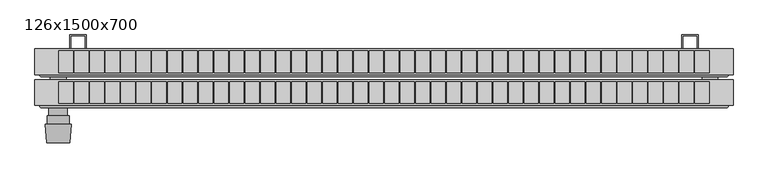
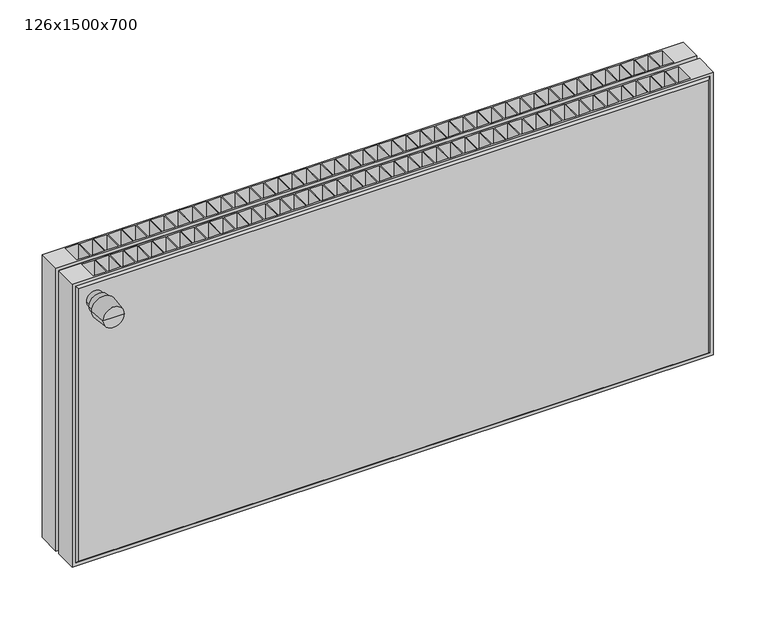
"""IFC4 building model written with IfcOpenShell, lengths in millimetres: unitary equipment geometry, NBS_Hudevad_Rdtrs_PlanDouble : 126x1500x700."""

from ifc_helpers import new_model, si_unit, point, frame, frame_2d, origin, place, context, project, spatial, polyline, circle_curve, trimmed, segment, composite_curve, outline, extrude, faceted_brep, source, transform, mapped, element, save
from ifc_brep_helpers import plane_surface, cylinder_surface, revolved_surface, advanced_brep


def unitary_equipment_126x1500x700_0e61a479(model_context):
    return source(origin(), model_context, "Body", "SolidModel", [
        faceted_brep([(1487.13, -156.0, 687.2), (12.87, -156.0, 687.2), (12.87, -156.0, 12.8), (1487.13, -156.0, 12.8), (1492.13, -151.41, 692.2), (1492.13, -151.41, 7.8), (7.87, -151.41, 7.8), (7.87, -151.41, 692.2)], [[[0, 1, 2, 3]], [[4, 5, 6, 7]], [[4, 7, 1, 0]], [[7, 6, 2, 1]], [[6, 5, 3, 2]], [[5, 4, 0, 3]]]),
        faceted_brep([(1500.0, -96.0, 700.0), (0.0, -96.0, 700.0), (0.0, -151.41, 700.0), (1500.0, -151.41, 700.0), (1418.15, -100.1, 700.0), (1448.45, -100.1, 700.0), (1448.45, -147.31, 700.0), (1418.15, -147.31, 700.0), (84.8817073, -100.1, 700.0), (115.1817073, -100.1, 700.0), (115.1817073, -147.31, 700.0), (84.8817073, -147.31, 700.0), (118.2134146, -100.1, 700.0), (148.5134146, -100.1, 700.0), (148.5134146, -147.31, 700.0), (118.2134146, -147.31, 700.0), (151.545122, -100.1, 700.0), (181.845122, -100.1, 700.0), (181.845122, -147.31, 700.0), (151.545122, -147.31, 700.0), (184.8768293, -100.1, 700.0), (215.1768293, -100.1, 700.0), (215.1768293, -147.31, 700.0), (184.8768293, -147.31, 700.0), (218.2085366, -100.1, 700.0), (248.5085366, -100.1, 700.0), (248.5085366, -147.31, 700.0), (218.2085366, -147.31, 700.0), (251.5402439, -100.1, 700.0), (281.8402439, -100.1, 700.0), (281.8402439, -147.31, 700.0), (251.5402439, -147.31, 700.0), (284.8719512, -100.1, 700.0), (315.1719512, -100.1, 700.0), (315.1719512, -147.31, 700.0), (284.8719512, -147.31, 700.0), (318.2036585, -100.1, 700.0), (348.5036585, -100.1, 700.0), (348.5036585, -147.31, 700.0), (318.2036585, -147.31, 700.0), (351.5353659, -100.1, 700.0), (381.8353659, -100.1, 700.0), (381.8353659, -147.31, 700.0), (351.5353659, -147.31, 700.0), (384.8670732, -100.1, 700.0), (415.1670732, -100.1, 700.0), (415.1670732, -147.31, 700.0), (384.8670732, -147.31, 700.0), (418.1987805, -100.1, 700.0), (448.4987805, -100.1, 700.0), (448.4987805, -147.31, 700.0), (418.1987805, -147.31, 700.0), (451.5304878, -100.1, 700.0), (481.8304878, -100.1, 700.0), (481.8304878, -147.31, 700.0), (451.5304878, -147.31, 700.0), (484.8621951, -100.1, 700.0), (515.1621951, -100.1, 700.0), (515.1621951, -147.31, 700.0), (484.8621951, -147.31, 700.0), (51.55, -100.1, 700.0), (81.85, -100.1, 700.0), (81.85, -147.31, 700.0), (51.55, -147.31, 700.0), (518.1939024, -100.1, 700.0), (548.4939024, -100.1, 700.0), (548.4939024, -147.31, 700.0), (518.1939024, -147.31, 700.0), (551.5256098, -100.1, 700.0), (581.8256098, -100.1, 700.0), (581.8256098, -147.31, 700.0), (551.5256098, -147.31, 700.0), (584.8573171, -100.1, 700.0), (615.1573171, -100.1, 700.0), (615.1573171, -147.31, 700.0), (584.8573171, -147.31, 700.0), (618.1890244, -100.1, 700.0), (648.4890244, -100.1, 700.0), (648.4890244, -147.31, 700.0), (618.1890244, -147.31, 700.0), (651.5207317, -100.1, 700.0), (681.8207317, -100.1, 700.0), (681.8207317, -147.31, 700.0), (651.5207317, -147.31, 700.0), (684.852439, -100.1, 700.0), (715.152439, -100.1, 700.0), (715.152439, -147.31, 700.0), (684.852439, -147.31, 700.0), (718.1841463, -100.1, 700.0), (748.4841463, -100.1, 700.0), (748.4841463, -147.31, 700.0), (718.1841463, -147.31, 700.0), (751.5158537, -100.1, 700.0), (781.8158537, -100.1, 700.0), (781.8158537, -147.31, 700.0), (751.5158537, -147.31, 700.0), (784.847561, -100.1, 700.0), (815.147561, -100.1, 700.0), (815.147561, -147.31, 700.0), (784.847561, -147.31, 700.0), (818.1792683, -100.1, 700.0), (848.4792683, -100.1, 700.0), (848.4792683, -147.31, 700.0), (818.1792683, -147.31, 700.0), (851.5109756, -100.1, 700.0), (881.8109756, -100.1, 700.0), (881.8109756, -147.31, 700.0), (851.5109756, -147.31, 700.0), (884.8426829, -100.1, 700.0), (915.1426829, -100.1, 700.0), (915.1426829, -147.31, 700.0), (884.8426829, -147.31, 700.0), (918.1743902, -100.1, 700.0), (948.4743902, -100.1, 700.0), (948.4743902, -147.31, 700.0), (918.1743902, -147.31, 700.0), (951.5060976, -100.1, 700.0), (981.8060976, -100.1, 700.0), (981.8060976, -147.31, 700.0), (951.5060976, -147.31, 700.0), (984.8378049, -100.1, 700.0), (1015.1378049, -100.1, 700.0), (1015.1378049, -147.31, 700.0), (984.8378049, -147.31, 700.0), (1018.1695122, -100.1, 700.0), (1048.4695122, -100.1, 700.0), (1048.4695122, -147.31, 700.0), (1018.1695122, -147.31, 700.0), (1051.5012195, -100.1, 700.0), (1081.8012195, -100.1, 700.0), (1081.8012195, -147.31, 700.0), (1051.5012195, -147.31, 700.0), (1084.8329268, -100.1, 700.0), (1115.1329268, -100.1, 700.0), (1115.1329268, -147.31, 700.0), (1084.8329268, -147.31, 700.0), (1118.1646341, -100.1, 700.0), (1148.4646341, -100.1, 700.0), (1148.4646341, -147.31, 700.0), (1118.1646341, -147.31, 700.0), (1151.4963415, -100.1, 700.0), (1181.7963415, -100.1, 700.0), (1181.7963415, -147.31, 700.0), (1151.4963415, -147.31, 700.0), (1184.8280488, -100.1, 700.0), (1215.1280488, -100.1, 700.0), (1215.1280488, -147.31, 700.0), (1184.8280488, -147.31, 700.0), (1218.1597561, -100.1, 700.0), (1248.4597561, -100.1, 700.0), (1248.4597561, -147.31, 700.0), (1218.1597561, -147.31, 700.0), (1251.4914634, -100.1, 700.0), (1281.7914634, -100.1, 700.0), (1281.7914634, -147.31, 700.0), (1251.4914634, -147.31, 700.0), (1284.8231707, -100.1, 700.0), (1315.1231707, -100.1, 700.0), (1315.1231707, -147.31, 700.0), (1284.8231707, -147.31, 700.0), (1318.154878, -100.1, 700.0), (1348.454878, -100.1, 700.0), (1348.454878, -147.31, 700.0), (1318.154878, -147.31, 700.0), (1351.4865854, -100.1, 700.0), (1381.7865854, -100.1, 700.0), (1381.7865854, -147.31, 700.0), (1351.4865854, -147.31, 700.0), (1384.8182927, -100.1, 700.0), (1415.1182927, -100.1, 700.0), (1415.1182927, -147.31, 700.0), (1384.8182927, -147.31, 700.0), (0.0, -96.0, 0.0), (1500.0, -96.0, 0.0), (1500.0, -151.41, 0.0), (0.0, -151.41, 0.0), (1448.45, -100.1, 650.0), (1418.15, -100.1, 650.0), (1418.15, -147.31, 650.0), (1448.45, -147.31, 650.0), (115.1817073, -100.1, 650.0), (84.8817073, -100.1, 650.0), (84.8817073, -147.31, 650.0), (115.1817073, -147.31, 650.0), (148.5134146, -100.1, 650.0), (118.2134146, -100.1, 650.0), (118.2134146, -147.31, 650.0), (148.5134146, -147.31, 650.0), (181.845122, -100.1, 650.0), (151.545122, -100.1, 650.0), (151.545122, -147.31, 650.0), (181.845122, -147.31, 650.0), (215.1768293, -100.1, 650.0), (184.8768293, -100.1, 650.0), (184.8768293, -147.31, 650.0), (215.1768293, -147.31, 650.0), (248.5085366, -100.1, 650.0), (218.2085366, -100.1, 650.0), (218.2085366, -147.31, 650.0), (248.5085366, -147.31, 650.0), (281.8402439, -100.1, 650.0), (251.5402439, -100.1, 650.0), (251.5402439, -147.31, 650.0), (281.8402439, -147.31, 650.0), (315.1719512, -100.1, 650.0), (284.8719512, -100.1, 650.0), (284.8719512, -147.31, 650.0), (315.1719512, -147.31, 650.0), (348.5036585, -100.1, 650.0), (318.2036585, -100.1, 650.0), (318.2036585, -147.31, 650.0), (348.5036585, -147.31, 650.0), (381.8353659, -100.1, 650.0), (351.5353659, -100.1, 650.0), (351.5353659, -147.31, 650.0), (381.8353659, -147.31, 650.0), (415.1670732, -100.1, 650.0), (384.8670732, -100.1, 650.0), (384.8670732, -147.31, 650.0), (415.1670732, -147.31, 650.0), (448.4987805, -100.1, 650.0), (418.1987805, -100.1, 650.0), (418.1987805, -147.31, 650.0), (448.4987805, -147.31, 650.0), (481.8304878, -100.1, 650.0), (451.5304878, -100.1, 650.0), (451.5304878, -147.31, 650.0), (481.8304878, -147.31, 650.0), (515.1621951, -100.1, 650.0), (484.8621951, -100.1, 650.0), (484.8621951, -147.31, 650.0), (515.1621951, -147.31, 650.0), (81.85, -100.1, 650.0), (51.55, -100.1, 650.0), (51.55, -147.31, 650.0), (81.85, -147.31, 650.0), (1151.4963415, -147.31, 650.0), (1151.4963415, -100.1, 650.0), (951.5060976, -147.31, 650.0), (951.5060976, -100.1, 650.0), (984.8378049, -147.31, 650.0), (984.8378049, -100.1, 650.0), (1018.1695122, -147.31, 650.0), (1018.1695122, -100.1, 650.0), (1051.5012195, -147.31, 650.0), (1051.5012195, -100.1, 650.0), (1084.8329268, -147.31, 650.0), (1084.8329268, -100.1, 650.0), (1118.1646341, -147.31, 650.0), (1118.1646341, -100.1, 650.0), (1184.8280488, -147.31, 650.0), (1184.8280488, -100.1, 650.0), (1218.1597561, -147.31, 650.0), (1218.1597561, -100.1, 650.0), (1251.4914634, -147.31, 650.0), (1251.4914634, -100.1, 650.0), (1284.8231707, -147.31, 650.0), (1284.8231707, -100.1, 650.0), (1318.154878, -147.31, 650.0), (1318.154878, -100.1, 650.0), (1351.4865854, -147.31, 650.0), (1351.4865854, -100.1, 650.0), (1384.8182927, -147.31, 650.0), (1384.8182927, -100.1, 650.0), (548.4939024, -100.1, 650.0), (518.1939024, -100.1, 650.0), (518.1939024, -147.31, 650.0), (548.4939024, -147.31, 650.0), (581.8256098, -100.1, 650.0), (551.5256098, -100.1, 650.0), (551.5256098, -147.31, 650.0), (581.8256098, -147.31, 650.0), (615.1573171, -100.1, 650.0), (584.8573171, -100.1, 650.0), (584.8573171, -147.31, 650.0), (615.1573171, -147.31, 650.0), (648.4890244, -100.1, 650.0), (618.1890244, -100.1, 650.0), (618.1890244, -147.31, 650.0), (648.4890244, -147.31, 650.0), (681.8207317, -100.1, 650.0), (651.5207317, -100.1, 650.0), (651.5207317, -147.31, 650.0), (681.8207317, -147.31, 650.0), (715.152439, -100.1, 650.0), (684.852439, -100.1, 650.0), (684.852439, -147.31, 650.0), (715.152439, -147.31, 650.0), (748.4841463, -100.1, 650.0), (718.1841463, -100.1, 650.0), (718.1841463, -147.31, 650.0), (748.4841463, -147.31, 650.0), (781.8158537, -100.1, 650.0), (751.5158537, -100.1, 650.0), (751.5158537, -147.31, 650.0), (781.8158537, -147.31, 650.0), (815.147561, -100.1, 650.0), (784.847561, -100.1, 650.0), (784.847561, -147.31, 650.0), (815.147561, -147.31, 650.0), (848.4792683, -100.1, 650.0), (818.1792683, -100.1, 650.0), (818.1792683, -147.31, 650.0), (848.4792683, -147.31, 650.0), (881.8109756, -100.1, 650.0), (851.5109756, -100.1, 650.0), (851.5109756, -147.31, 650.0), (881.8109756, -147.31, 650.0), (915.1426829, -100.1, 650.0), (884.8426829, -100.1, 650.0), (884.8426829, -147.31, 650.0), (915.1426829, -147.31, 650.0), (948.4743902, -100.1, 650.0), (918.1743902, -100.1, 650.0), (918.1743902, -147.31, 650.0), (948.4743902, -147.31, 650.0), (981.8060976, -100.1, 650.0), (981.8060976, -147.31, 650.0), (1015.1378049, -100.1, 650.0), (1015.1378049, -147.31, 650.0), (1048.4695122, -100.1, 650.0), (1048.4695122, -147.31, 650.0), (1081.8012195, -100.1, 650.0), (1081.8012195, -147.31, 650.0), (1115.1329268, -100.1, 650.0), (1115.1329268, -147.31, 650.0), (1148.4646341, -100.1, 650.0), (1148.4646341, -147.31, 650.0), (1181.7963415, -100.1, 650.0), (1181.7963415, -147.31, 650.0), (1215.1280488, -100.1, 650.0), (1215.1280488, -147.31, 650.0), (1248.4597561, -100.1, 650.0), (1248.4597561, -147.31, 650.0), (1281.7914634, -100.1, 650.0), (1281.7914634, -147.31, 650.0), (1315.1231707, -100.1, 650.0), (1315.1231707, -147.31, 650.0), (1348.454878, -100.1, 650.0), (1348.454878, -147.31, 650.0), (1381.7865854, -100.1, 650.0), (1381.7865854, -147.31, 650.0), (1415.1182927, -100.1, 650.0), (1415.1182927, -147.31, 650.0)], [[[0, 1, 2, 3], [4, 5, 6, 7], [8, 9, 10, 11], [12, 13, 14, 15], [16, 17, 18, 19], [20, 21, 22, 23], [24, 25, 26, 27], [28, 29, 30, 31], [32, 33, 34, 35], [36, 37, 38, 39], [40, 41, 42, 43], [44, 45, 46, 47], [48, 49, 50, 51], [52, 53, 54, 55], [56, 57, 58, 59], [60, 61, 62, 63], [64, 65, 66, 67], [68, 69, 70, 71], [72, 73, 74, 75], [76, 77, 78, 79], [80, 81, 82, 83], [84, 85, 86, 87], [88, 89, 90, 91], [92, 93, 94, 95], [96, 97, 98, 99], [100, 101, 102, 103], [104, 105, 106, 107], [108, 109, 110, 111], [112, 113, 114, 115], [116, 117, 118, 119], [120, 121, 122, 123], [124, 125, 126, 127], [128, 129, 130, 131], [132, 133, 134, 135], [136, 137, 138, 139], [140, 141, 142, 143], [144, 145, 146, 147], [148, 149, 150, 151], [152, 153, 154, 155], [156, 157, 158, 159], [160, 161, 162, 163], [164, 165, 166, 167], [168, 169, 170, 171]], [[172, 173, 174, 175]], [[1, 0, 173, 172]], [[2, 1, 172, 175]], [[3, 2, 175, 174]], [[0, 3, 174, 173]], [[176, 177, 178, 179]], [[177, 176, 5, 4]], [[178, 177, 4, 7]], [[179, 178, 7, 6]], [[176, 179, 6, 5]], [[180, 181, 182, 183]], [[181, 180, 9, 8]], [[182, 181, 8, 11]], [[183, 182, 11, 10]], [[180, 183, 10, 9]], [[184, 185, 186, 187]], [[185, 184, 13, 12]], [[186, 185, 12, 15]], [[187, 186, 15, 14]], [[184, 187, 14, 13]], [[188, 189, 190, 191]], [[189, 188, 17, 16]], [[190, 189, 16, 19]], [[191, 190, 19, 18]], [[188, 191, 18, 17]], [[192, 193, 194, 195]], [[193, 192, 21, 20]], [[194, 193, 20, 23]], [[195, 194, 23, 22]], [[192, 195, 22, 21]], [[196, 197, 198, 199]], [[197, 196, 25, 24]], [[198, 197, 24, 27]], [[199, 198, 27, 26]], [[196, 199, 26, 25]], [[200, 201, 202, 203]], [[201, 200, 29, 28]], [[202, 201, 28, 31]], [[203, 202, 31, 30]], [[200, 203, 30, 29]], [[204, 205, 206, 207]], [[205, 204, 33, 32]], [[206, 205, 32, 35]], [[207, 206, 35, 34]], [[204, 207, 34, 33]], [[208, 209, 210, 211]], [[209, 208, 37, 36]], [[210, 209, 36, 39]], [[211, 210, 39, 38]], [[208, 211, 38, 37]], [[212, 213, 214, 215]], [[213, 212, 41, 40]], [[214, 213, 40, 43]], [[215, 214, 43, 42]], [[212, 215, 42, 41]], [[216, 217, 218, 219]], [[217, 216, 45, 44]], [[218, 217, 44, 47]], [[219, 218, 47, 46]], [[216, 219, 46, 45]], [[220, 221, 222, 223]], [[221, 220, 49, 48]], [[222, 221, 48, 51]], [[223, 222, 51, 50]], [[220, 223, 50, 49]], [[224, 225, 226, 227]], [[225, 224, 53, 52]], [[226, 225, 52, 55]], [[227, 226, 55, 54]], [[224, 227, 54, 53]], [[228, 229, 230, 231]], [[229, 228, 57, 56]], [[230, 229, 56, 59]], [[231, 230, 59, 58]], [[228, 231, 58, 57]], [[232, 233, 234, 235]], [[233, 232, 61, 60]], [[234, 233, 60, 63]], [[235, 234, 63, 62]], [[232, 235, 62, 61]], [[236, 237, 140, 143]], [[238, 239, 116, 119]], [[240, 241, 120, 123]], [[242, 243, 124, 127]], [[244, 245, 128, 131]], [[246, 247, 132, 135]], [[248, 249, 136, 139]], [[250, 251, 144, 147]], [[252, 253, 148, 151]], [[254, 255, 152, 155]], [[256, 257, 156, 159]], [[258, 259, 160, 163]], [[260, 261, 164, 167]], [[262, 263, 168, 171]], [[264, 265, 266, 267]], [[265, 264, 65, 64]], [[266, 265, 64, 67]], [[267, 266, 67, 66]], [[264, 267, 66, 65]], [[268, 269, 270, 271]], [[269, 268, 69, 68]], [[270, 269, 68, 71]], [[271, 270, 71, 70]], [[268, 271, 70, 69]], [[272, 273, 274, 275]], [[273, 272, 73, 72]], [[274, 273, 72, 75]], [[275, 274, 75, 74]], [[272, 275, 74, 73]], [[276, 277, 278, 279]], [[277, 276, 77, 76]], [[278, 277, 76, 79]], [[279, 278, 79, 78]], [[276, 279, 78, 77]], [[280, 281, 282, 283]], [[281, 280, 81, 80]], [[282, 281, 80, 83]], [[283, 282, 83, 82]], [[280, 283, 82, 81]], [[284, 285, 286, 287]], [[285, 284, 85, 84]], [[286, 285, 84, 87]], [[287, 286, 87, 86]], [[284, 287, 86, 85]], [[288, 289, 290, 291]], [[289, 288, 89, 88]], [[290, 289, 88, 91]], [[291, 290, 91, 90]], [[288, 291, 90, 89]], [[292, 293, 294, 295]], [[293, 292, 93, 92]], [[294, 293, 92, 95]], [[295, 294, 95, 94]], [[292, 295, 94, 93]], [[296, 297, 298, 299]], [[297, 296, 97, 96]], [[298, 297, 96, 99]], [[299, 298, 99, 98]], [[296, 299, 98, 97]], [[300, 301, 302, 303]], [[301, 300, 101, 100]], [[302, 301, 100, 103]], [[303, 302, 103, 102]], [[300, 303, 102, 101]], [[304, 305, 306, 307]], [[305, 304, 105, 104]], [[306, 305, 104, 107]], [[307, 306, 107, 106]], [[304, 307, 106, 105]], [[308, 309, 310, 311]], [[309, 308, 109, 108]], [[310, 309, 108, 111]], [[311, 310, 111, 110]], [[308, 311, 110, 109]], [[312, 313, 314, 315]], [[313, 312, 113, 112]], [[314, 313, 112, 115]], [[315, 314, 115, 114]], [[312, 315, 114, 113]], [[316, 239, 238, 317]], [[239, 316, 117, 116]], [[317, 238, 119, 118]], [[316, 317, 118, 117]], [[318, 241, 240, 319]], [[241, 318, 121, 120]], [[319, 240, 123, 122]], [[318, 319, 122, 121]], [[320, 243, 242, 321]], [[243, 320, 125, 124]], [[321, 242, 127, 126]], [[320, 321, 126, 125]], [[322, 245, 244, 323]], [[245, 322, 129, 128]], [[323, 244, 131, 130]], [[322, 323, 130, 129]], [[324, 247, 246, 325]], [[247, 324, 133, 132]], [[325, 246, 135, 134]], [[324, 325, 134, 133]], [[326, 249, 248, 327]], [[249, 326, 137, 136]], [[327, 248, 139, 138]], [[326, 327, 138, 137]], [[328, 237, 236, 329]], [[237, 328, 141, 140]], [[329, 236, 143, 142]], [[328, 329, 142, 141]], [[330, 251, 250, 331]], [[251, 330, 145, 144]], [[331, 250, 147, 146]], [[330, 331, 146, 145]], [[332, 253, 252, 333]], [[253, 332, 149, 148]], [[333, 252, 151, 150]], [[332, 333, 150, 149]], [[334, 255, 254, 335]], [[255, 334, 153, 152]], [[335, 254, 155, 154]], [[334, 335, 154, 153]], [[336, 257, 256, 337]], [[257, 336, 157, 156]], [[337, 256, 159, 158]], [[336, 337, 158, 157]], [[338, 259, 258, 339]], [[259, 338, 161, 160]], [[339, 258, 163, 162]], [[338, 339, 162, 161]], [[340, 261, 260, 341]], [[261, 340, 165, 164]], [[341, 260, 167, 166]], [[340, 341, 166, 165]], [[342, 263, 262, 343]], [[263, 342, 169, 168]], [[343, 262, 171, 170]], [[342, 343, 170, 169]]]),
        advanced_brep(
        [(78.0, -192.0, 650.0), (22.0, -192.0, 650.0), (25.0, -232.0, 650.0), (75.0, -232.0, 650.0), (74.0, -192.0, 650.0), (26.0, -192.0, 650.0), (74.0, -174.0, 650.0), (26.0, -174.0, 650.0), (70.0, -174.0, 650.0), (30.0, -174.0, 650.0), (70.0, -156.0, 650.0), (30.0, -156.0, 650.0), (50.0, -156.0, 650.0), (50.0, -232.0, 650.0)],
        [
            (0, 1, circle_curve(frame((50.0, -192.0, 650.0), z_axis=(0.0, -1.0, 0.0), x_axis=(-1.0, 0.0, 0.0)), 28.0)),
            (1, 2),
            (2, 3, circle_curve(frame((50.0, -232.0, 650.0), z_axis=(0.0, 1.0, 0.0), x_axis=(-1.0, 0.0, 0.0)), 25.0)),
            (3, 0),
            (1, 0, circle_curve(frame((50.0, -192.0, 650.0), z_axis=(0.0, -1.0, 0.0), x_axis=(-1.0, 0.0, 0.0)), 28.0)),
            (3, 2, circle_curve(frame((50.0, -232.0, 650.0), z_axis=(0.0, 1.0, 0.0), x_axis=(-1.0, 0.0, 0.0)), 25.0)),
            (4, 5, circle_curve(frame((50.0, -192.0, 650.0), z_axis=(0.0, -1.0, 0.0), x_axis=(-1.0, 0.0, 0.0)), 24.0)),
            (5, 1),
            (0, 4),
            (5, 4, circle_curve(frame((50.0, -192.0, 650.0), z_axis=(0.0, -1.0, 0.0), x_axis=(-1.0, 0.0, 0.0)), 24.0)),
            (6, 7, circle_curve(frame((50.0, -174.0, 650.0), z_axis=(0.0, -1.0, 0.0), x_axis=(-1.0, 0.0, 0.0)), 24.0)),
            (7, 5),
            (4, 6),
            (7, 6, circle_curve(frame((50.0, -174.0, 650.0), z_axis=(0.0, -1.0, 0.0), x_axis=(-1.0, 0.0, 0.0)), 24.0)),
            (8, 9, circle_curve(frame((50.0, -174.0, 650.0), z_axis=(0.0, -1.0, 0.0), x_axis=(-1.0, 0.0, 0.0)), 20.0)),
            (9, 7),
            (6, 8),
            (9, 8, circle_curve(frame((50.0, -174.0, 650.0), z_axis=(0.0, -1.0, 0.0), x_axis=(-1.0, 0.0, 0.0)), 20.0)),
            (10, 11, circle_curve(frame((50.0, -156.0, 650.0), z_axis=(0.0, -1.0, 0.0), x_axis=(-1.0, 0.0, 0.0)), 20.0)),
            (11, 9),
            (8, 10),
            (11, 10, circle_curve(frame((50.0, -156.0, 650.0), z_axis=(0.0, -1.0, 0.0), x_axis=(-1.0, 0.0, 0.0)), 20.0)),
            (12, 11),
            (10, 12),
            (2, 13),
            (13, 3),
        ],
        [
            revolved_surface(polyline([(25.0, -232.0, 650.0), (22.0, -192.0, 650.0)]), (50.0, 453.6, 650.0), (0.0, 1.0, 0.0)),
            plane_surface(frame((50.0, -192.0, 650.0), z_axis=(0.0, 1.0, 0.0), x_axis=(-1.0, 0.0, 0.0))),
            cylinder_surface(frame((50.0, 453.6, 650.0), z_axis=(0.0, 1.0, 0.0), x_axis=(-1.0, 0.0, 0.0)), 24.0),
            plane_surface(frame((50.0, -174.0, 650.0), z_axis=(0.0, 1.0, 0.0), x_axis=(-1.0, 0.0, 0.0))),
            cylinder_surface(frame((50.0, 453.6, 650.0), z_axis=(0.0, 1.0, 0.0), x_axis=(-1.0, 0.0, 0.0)), 20.0),
            plane_surface(frame((50.0, -156.0, 650.0), z_axis=(0.0, 1.0, 0.0), x_axis=(-1.0, 0.0, 0.0))),
            plane_surface(frame((50.0, -232.0, 650.0), z_axis=(0.0, -1.0, 0.0), x_axis=(-1.0, 0.0, 0.0))),
        ],
        [
            (0, [[1, 2, 3, 4]]),
            (0, [[5, -4, 6, -2]]),
            (1, [[7, 8, -1, 9]]),
            (1, [[10, -9, -5, -8]]),
            (2, [[11, 12, -7, 13]]),
            (2, [[14, -13, -10, -12]]),
            (3, [[15, 16, -11, 17]]),
            (3, [[18, -17, -14, -16]]),
            (4, [[19, 20, -15, 21]]),
            (4, [[22, -21, -18, -20]]),
            (5, [[23, -19, 24]]),
            (5, [[-24, -22, -23]]),
            (6, [[-3, 25, 26]]),
            (6, [[-6, -26, -25]]),
        ],
    ),
        faceted_brep([(1487.13, -90.0, 687.2), (12.87, -90.0, 687.2), (12.87, -90.0, 12.8), (1487.13, -90.0, 12.8), (1492.13, -85.41, 692.2), (1492.13, -85.41, 7.8), (7.87, -85.41, 7.8), (7.87, -85.41, 692.2)], [[[0, 1, 2, 3]], [[4, 5, 6, 7]], [[4, 7, 1, 0]], [[7, 6, 2, 1]], [[6, 5, 3, 2]], [[5, 4, 0, 3]]]),
        faceted_brep([(1500.0, -30.0, 700.0), (0.0, -30.0, 700.0), (0.0, -85.41, 700.0), (1500.0, -85.41, 700.0), (1418.15, -34.1, 700.0), (1448.45, -34.1, 700.0), (1448.45, -81.31, 700.0), (1418.15, -81.31, 700.0), (84.8817073, -34.1, 700.0), (115.1817073, -34.1, 700.0), (115.1817073, -81.31, 700.0), (84.8817073, -81.31, 700.0), (118.2134146, -34.1, 700.0), (148.5134146, -34.1, 700.0), (148.5134146, -81.31, 700.0), (118.2134146, -81.31, 700.0), (151.545122, -34.1, 700.0), (181.845122, -34.1, 700.0), (181.845122, -81.31, 700.0), (151.545122, -81.31, 700.0), (184.8768293, -34.1, 700.0), (215.1768293, -34.1, 700.0), (215.1768293, -81.31, 700.0), (184.8768293, -81.31, 700.0), (218.2085366, -34.1, 700.0), (248.5085366, -34.1, 700.0), (248.5085366, -81.31, 700.0), (218.2085366, -81.31, 700.0), (251.5402439, -34.1, 700.0), (281.8402439, -34.1, 700.0), (281.8402439, -81.31, 700.0), (251.5402439, -81.31, 700.0), (284.8719512, -34.1, 700.0), (315.1719512, -34.1, 700.0), (315.1719512, -81.31, 700.0), (284.8719512, -81.31, 700.0), (318.2036585, -34.1, 700.0), (348.5036585, -34.1, 700.0), (348.5036585, -81.31, 700.0), (318.2036585, -81.31, 700.0), (351.5353659, -34.1, 700.0), (381.8353659, -34.1, 700.0), (381.8353659, -81.31, 700.0), (351.5353659, -81.31, 700.0), (384.8670732, -34.1, 700.0), (415.1670732, -34.1, 700.0), (415.1670732, -81.31, 700.0), (384.8670732, -81.31, 700.0), (418.1987805, -34.1, 700.0), (448.4987805, -34.1, 700.0), (448.4987805, -81.31, 700.0), (418.1987805, -81.31, 700.0), (451.5304878, -34.1, 700.0), (481.8304878, -34.1, 700.0), (481.8304878, -81.31, 700.0), (451.5304878, -81.31, 700.0), (484.8621951, -34.1, 700.0), (515.1621951, -34.1, 700.0), (515.1621951, -81.31, 700.0), (484.8621951, -81.31, 700.0), (51.55, -34.1, 700.0), (81.85, -34.1, 700.0), (81.85, -81.31, 700.0), (51.55, -81.31, 700.0), (518.1939024, -34.1, 700.0), (548.4939024, -34.1, 700.0), (548.4939024, -81.31, 700.0), (518.1939024, -81.31, 700.0), (551.5256098, -34.1, 700.0), (581.8256098, -34.1, 700.0), (581.8256098, -81.31, 700.0), (551.5256098, -81.31, 700.0), (584.8573171, -34.1, 700.0), (615.1573171, -34.1, 700.0), (615.1573171, -81.31, 700.0), (584.8573171, -81.31, 700.0), (618.1890244, -34.1, 700.0), (648.4890244, -34.1, 700.0), (648.4890244, -81.31, 700.0), (618.1890244, -81.31, 700.0), (651.5207317, -34.1, 700.0), (681.8207317, -34.1, 700.0), (681.8207317, -81.31, 700.0), (651.5207317, -81.31, 700.0), (684.852439, -34.1, 700.0), (715.152439, -34.1, 700.0), (715.152439, -81.31, 700.0), (684.852439, -81.31, 700.0), (718.1841463, -34.1, 700.0), (748.4841463, -34.1, 700.0), (748.4841463, -81.31, 700.0), (718.1841463, -81.31, 700.0), (751.5158537, -34.1, 700.0), (781.8158537, -34.1, 700.0), (781.8158537, -81.31, 700.0), (751.5158537, -81.31, 700.0), (784.847561, -34.1, 700.0), (815.147561, -34.1, 700.0), (815.147561, -81.31, 700.0), (784.847561, -81.31, 700.0), (818.1792683, -34.1, 700.0), (848.4792683, -34.1, 700.0), (848.4792683, -81.31, 700.0), (818.1792683, -81.31, 700.0), (851.5109756, -34.1, 700.0), (881.8109756, -34.1, 700.0), (881.8109756, -81.31, 700.0), (851.5109756, -81.31, 700.0), (884.8426829, -34.1, 700.0), (915.1426829, -34.1, 700.0), (915.1426829, -81.31, 700.0), (884.8426829, -81.31, 700.0), (918.1743902, -34.1, 700.0), (948.4743902, -34.1, 700.0), (948.4743902, -81.31, 700.0), (918.1743902, -81.31, 700.0), (951.5060976, -34.1, 700.0), (981.8060976, -34.1, 700.0), (981.8060976, -81.31, 700.0), (951.5060976, -81.31, 700.0), (984.8378049, -34.1, 700.0), (1015.1378049, -34.1, 700.0), (1015.1378049, -81.31, 700.0), (984.8378049, -81.31, 700.0), (1018.1695122, -34.1, 700.0), (1048.4695122, -34.1, 700.0), (1048.4695122, -81.31, 700.0), (1018.1695122, -81.31, 700.0), (1051.5012195, -34.1, 700.0), (1081.8012195, -34.1, 700.0), (1081.8012195, -81.31, 700.0), (1051.5012195, -81.31, 700.0), (1084.8329268, -34.1, 700.0), (1115.1329268, -34.1, 700.0), (1115.1329268, -81.31, 700.0), (1084.8329268, -81.31, 700.0), (1118.1646341, -34.1, 700.0), (1148.4646341, -34.1, 700.0), (1148.4646341, -81.31, 700.0), (1118.1646341, -81.31, 700.0), (1151.4963415, -34.1, 700.0), (1181.7963415, -34.1, 700.0), (1181.7963415, -81.31, 700.0), (1151.4963415, -81.31, 700.0), (1184.8280488, -34.1, 700.0), (1215.1280488, -34.1, 700.0), (1215.1280488, -81.31, 700.0), (1184.8280488, -81.31, 700.0), (1218.1597561, -34.1, 700.0), (1248.4597561, -34.1, 700.0), (1248.4597561, -81.31, 700.0), (1218.1597561, -81.31, 700.0), (1251.4914634, -34.1, 700.0), (1281.7914634, -34.1, 700.0), (1281.7914634, -81.31, 700.0), (1251.4914634, -81.31, 700.0), (1284.8231707, -34.1, 700.0), (1315.1231707, -34.1, 700.0), (1315.1231707, -81.31, 700.0), (1284.8231707, -81.31, 700.0), (1318.154878, -34.1, 700.0), (1348.454878, -34.1, 700.0), (1348.454878, -81.31, 700.0), (1318.154878, -81.31, 700.0), (1351.4865854, -34.1, 700.0), (1381.7865854, -34.1, 700.0), (1381.7865854, -81.31, 700.0), (1351.4865854, -81.31, 700.0), (1384.8182927, -34.1, 700.0), (1415.1182927, -34.1, 700.0), (1415.1182927, -81.31, 700.0), (1384.8182927, -81.31, 700.0), (0.0, -30.0, 0.0), (1500.0, -30.0, 0.0), (1500.0, -85.41, 0.0), (0.0, -85.41, 0.0), (1448.45, -34.1, 650.0), (1418.15, -34.1, 650.0), (1418.15, -81.31, 650.0), (1448.45, -81.31, 650.0), (115.1817073, -34.1, 650.0), (84.8817073, -34.1, 650.0), (84.8817073, -81.31, 650.0), (115.1817073, -81.31, 650.0), (148.5134146, -34.1, 650.0), (118.2134146, -34.1, 650.0), (118.2134146, -81.31, 650.0), (148.5134146, -81.31, 650.0), (181.845122, -34.1, 650.0), (151.545122, -34.1, 650.0), (151.545122, -81.31, 650.0), (181.845122, -81.31, 650.0), (215.1768293, -34.1, 650.0), (184.8768293, -34.1, 650.0), (184.8768293, -81.31, 650.0), (215.1768293, -81.31, 650.0), (248.5085366, -34.1, 650.0), (218.2085366, -34.1, 650.0), (218.2085366, -81.31, 650.0), (248.5085366, -81.31, 650.0), (281.8402439, -34.1, 650.0), (251.5402439, -34.1, 650.0), (251.5402439, -81.31, 650.0), (281.8402439, -81.31, 650.0), (315.1719512, -34.1, 650.0), (284.8719512, -34.1, 650.0), (284.8719512, -81.31, 650.0), (315.1719512, -81.31, 650.0), (348.5036585, -34.1, 650.0), (318.2036585, -34.1, 650.0), (318.2036585, -81.31, 650.0), (348.5036585, -81.31, 650.0), (381.8353659, -34.1, 650.0), (351.5353659, -34.1, 650.0), (351.5353659, -81.31, 650.0), (381.8353659, -81.31, 650.0), (415.1670732, -34.1, 650.0), (384.8670732, -34.1, 650.0), (384.8670732, -81.31, 650.0), (415.1670732, -81.31, 650.0), (448.4987805, -34.1, 650.0), (418.1987805, -34.1, 650.0), (418.1987805, -81.31, 650.0), (448.4987805, -81.31, 650.0), (481.8304878, -34.1, 650.0), (451.5304878, -34.1, 650.0), (451.5304878, -81.31, 650.0), (481.8304878, -81.31, 650.0), (515.1621951, -34.1, 650.0), (484.8621951, -34.1, 650.0), (484.8621951, -81.31, 650.0), (515.1621951, -81.31, 650.0), (81.85, -34.1, 650.0), (51.55, -34.1, 650.0), (51.55, -81.31, 650.0), (81.85, -81.31, 650.0), (1151.4963415, -81.31, 650.0), (1151.4963415, -34.1, 650.0), (951.5060976, -81.31, 650.0), (951.5060976, -34.1, 650.0), (984.8378049, -81.31, 650.0), (984.8378049, -34.1, 650.0), (1018.1695122, -81.31, 650.0), (1018.1695122, -34.1, 650.0), (1051.5012195, -81.31, 650.0), (1051.5012195, -34.1, 650.0), (1084.8329268, -81.31, 650.0), (1084.8329268, -34.1, 650.0), (1118.1646341, -81.31, 650.0), (1118.1646341, -34.1, 650.0), (1184.8280488, -81.31, 650.0), (1184.8280488, -34.1, 650.0), (1218.1597561, -81.31, 650.0), (1218.1597561, -34.1, 650.0), (1251.4914634, -81.31, 650.0), (1251.4914634, -34.1, 650.0), (1284.8231707, -81.31, 650.0), (1284.8231707, -34.1, 650.0), (1318.154878, -81.31, 650.0), (1318.154878, -34.1, 650.0), (1351.4865854, -81.31, 650.0), (1351.4865854, -34.1, 650.0), (1384.8182927, -81.31, 650.0), (1384.8182927, -34.1, 650.0), (548.4939024, -34.1, 650.0), (518.1939024, -34.1, 650.0), (518.1939024, -81.31, 650.0), (548.4939024, -81.31, 650.0), (581.8256098, -34.1, 650.0), (551.5256098, -34.1, 650.0), (551.5256098, -81.31, 650.0), (581.8256098, -81.31, 650.0), (615.1573171, -34.1, 650.0), (584.8573171, -34.1, 650.0), (584.8573171, -81.31, 650.0), (615.1573171, -81.31, 650.0), (648.4890244, -34.1, 650.0), (618.1890244, -34.1, 650.0), (618.1890244, -81.31, 650.0), (648.4890244, -81.31, 650.0), (681.8207317, -34.1, 650.0), (651.5207317, -34.1, 650.0), (651.5207317, -81.31, 650.0), (681.8207317, -81.31, 650.0), (715.152439, -34.1, 650.0), (684.852439, -34.1, 650.0), (684.852439, -81.31, 650.0), (715.152439, -81.31, 650.0), (748.4841463, -34.1, 650.0), (718.1841463, -34.1, 650.0), (718.1841463, -81.31, 650.0), (748.4841463, -81.31, 650.0), (781.8158537, -34.1, 650.0), (751.5158537, -34.1, 650.0), (751.5158537, -81.31, 650.0), (781.8158537, -81.31, 650.0), (815.147561, -34.1, 650.0), (784.847561, -34.1, 650.0), (784.847561, -81.31, 650.0), (815.147561, -81.31, 650.0), (848.4792683, -34.1, 650.0), (818.1792683, -34.1, 650.0), (818.1792683, -81.31, 650.0), (848.4792683, -81.31, 650.0), (881.8109756, -34.1, 650.0), (851.5109756, -34.1, 650.0), (851.5109756, -81.31, 650.0), (881.8109756, -81.31, 650.0), (915.1426829, -34.1, 650.0), (884.8426829, -34.1, 650.0), (884.8426829, -81.31, 650.0), (915.1426829, -81.31, 650.0), (948.4743902, -34.1, 650.0), (918.1743902, -34.1, 650.0), (918.1743902, -81.31, 650.0), (948.4743902, -81.31, 650.0), (981.8060976, -34.1, 650.0), (981.8060976, -81.31, 650.0), (1015.1378049, -34.1, 650.0), (1015.1378049, -81.31, 650.0), (1048.4695122, -34.1, 650.0), (1048.4695122, -81.31, 650.0), (1081.8012195, -34.1, 650.0), (1081.8012195, -81.31, 650.0), (1115.1329268, -34.1, 650.0), (1115.1329268, -81.31, 650.0), (1148.4646341, -34.1, 650.0), (1148.4646341, -81.31, 650.0), (1181.7963415, -34.1, 650.0), (1181.7963415, -81.31, 650.0), (1215.1280488, -34.1, 650.0), (1215.1280488, -81.31, 650.0), (1248.4597561, -34.1, 650.0), (1248.4597561, -81.31, 650.0), (1281.7914634, -34.1, 650.0), (1281.7914634, -81.31, 650.0), (1315.1231707, -34.1, 650.0), (1315.1231707, -81.31, 650.0), (1348.454878, -34.1, 650.0), (1348.454878, -81.31, 650.0), (1381.7865854, -34.1, 650.0), (1381.7865854, -81.31, 650.0), (1415.1182927, -34.1, 650.0), (1415.1182927, -81.31, 650.0)], [[[0, 1, 2, 3], [4, 5, 6, 7], [8, 9, 10, 11], [12, 13, 14, 15], [16, 17, 18, 19], [20, 21, 22, 23], [24, 25, 26, 27], [28, 29, 30, 31], [32, 33, 34, 35], [36, 37, 38, 39], [40, 41, 42, 43], [44, 45, 46, 47], [48, 49, 50, 51], [52, 53, 54, 55], [56, 57, 58, 59], [60, 61, 62, 63], [64, 65, 66, 67], [68, 69, 70, 71], [72, 73, 74, 75], [76, 77, 78, 79], [80, 81, 82, 83], [84, 85, 86, 87], [88, 89, 90, 91], [92, 93, 94, 95], [96, 97, 98, 99], [100, 101, 102, 103], [104, 105, 106, 107], [108, 109, 110, 111], [112, 113, 114, 115], [116, 117, 118, 119], [120, 121, 122, 123], [124, 125, 126, 127], [128, 129, 130, 131], [132, 133, 134, 135], [136, 137, 138, 139], [140, 141, 142, 143], [144, 145, 146, 147], [148, 149, 150, 151], [152, 153, 154, 155], [156, 157, 158, 159], [160, 161, 162, 163], [164, 165, 166, 167], [168, 169, 170, 171]], [[172, 173, 174, 175]], [[1, 0, 173, 172]], [[2, 1, 172, 175]], [[3, 2, 175, 174]], [[0, 3, 174, 173]], [[176, 177, 178, 179]], [[177, 176, 5, 4]], [[178, 177, 4, 7]], [[179, 178, 7, 6]], [[176, 179, 6, 5]], [[180, 181, 182, 183]], [[181, 180, 9, 8]], [[182, 181, 8, 11]], [[183, 182, 11, 10]], [[180, 183, 10, 9]], [[184, 185, 186, 187]], [[185, 184, 13, 12]], [[186, 185, 12, 15]], [[187, 186, 15, 14]], [[184, 187, 14, 13]], [[188, 189, 190, 191]], [[189, 188, 17, 16]], [[190, 189, 16, 19]], [[191, 190, 19, 18]], [[188, 191, 18, 17]], [[192, 193, 194, 195]], [[193, 192, 21, 20]], [[194, 193, 20, 23]], [[195, 194, 23, 22]], [[192, 195, 22, 21]], [[196, 197, 198, 199]], [[197, 196, 25, 24]], [[198, 197, 24, 27]], [[199, 198, 27, 26]], [[196, 199, 26, 25]], [[200, 201, 202, 203]], [[201, 200, 29, 28]], [[202, 201, 28, 31]], [[203, 202, 31, 30]], [[200, 203, 30, 29]], [[204, 205, 206, 207]], [[205, 204, 33, 32]], [[206, 205, 32, 35]], [[207, 206, 35, 34]], [[204, 207, 34, 33]], [[208, 209, 210, 211]], [[209, 208, 37, 36]], [[210, 209, 36, 39]], [[211, 210, 39, 38]], [[208, 211, 38, 37]], [[212, 213, 214, 215]], [[213, 212, 41, 40]], [[214, 213, 40, 43]], [[215, 214, 43, 42]], [[212, 215, 42, 41]], [[216, 217, 218, 219]], [[217, 216, 45, 44]], [[218, 217, 44, 47]], [[219, 218, 47, 46]], [[216, 219, 46, 45]], [[220, 221, 222, 223]], [[221, 220, 49, 48]], [[222, 221, 48, 51]], [[223, 222, 51, 50]], [[220, 223, 50, 49]], [[224, 225, 226, 227]], [[225, 224, 53, 52]], [[226, 225, 52, 55]], [[227, 226, 55, 54]], [[224, 227, 54, 53]], [[228, 229, 230, 231]], [[229, 228, 57, 56]], [[230, 229, 56, 59]], [[231, 230, 59, 58]], [[228, 231, 58, 57]], [[232, 233, 234, 235]], [[233, 232, 61, 60]], [[234, 233, 60, 63]], [[235, 234, 63, 62]], [[232, 235, 62, 61]], [[236, 237, 140, 143]], [[238, 239, 116, 119]], [[240, 241, 120, 123]], [[242, 243, 124, 127]], [[244, 245, 128, 131]], [[246, 247, 132, 135]], [[248, 249, 136, 139]], [[250, 251, 144, 147]], [[252, 253, 148, 151]], [[254, 255, 152, 155]], [[256, 257, 156, 159]], [[258, 259, 160, 163]], [[260, 261, 164, 167]], [[262, 263, 168, 171]], [[264, 265, 266, 267]], [[265, 264, 65, 64]], [[266, 265, 64, 67]], [[267, 266, 67, 66]], [[264, 267, 66, 65]], [[268, 269, 270, 271]], [[269, 268, 69, 68]], [[270, 269, 68, 71]], [[271, 270, 71, 70]], [[268, 271, 70, 69]], [[272, 273, 274, 275]], [[273, 272, 73, 72]], [[274, 273, 72, 75]], [[275, 274, 75, 74]], [[272, 275, 74, 73]], [[276, 277, 278, 279]], [[277, 276, 77, 76]], [[278, 277, 76, 79]], [[279, 278, 79, 78]], [[276, 279, 78, 77]], [[280, 281, 282, 283]], [[281, 280, 81, 80]], [[282, 281, 80, 83]], [[283, 282, 83, 82]], [[280, 283, 82, 81]], [[284, 285, 286, 287]], [[285, 284, 85, 84]], [[286, 285, 84, 87]], [[287, 286, 87, 86]], [[284, 287, 86, 85]], [[288, 289, 290, 291]], [[289, 288, 89, 88]], [[290, 289, 88, 91]], [[291, 290, 91, 90]], [[288, 291, 90, 89]], [[292, 293, 294, 295]], [[293, 292, 93, 92]], [[294, 293, 92, 95]], [[295, 294, 95, 94]], [[292, 295, 94, 93]], [[296, 297, 298, 299]], [[297, 296, 97, 96]], [[298, 297, 96, 99]], [[299, 298, 99, 98]], [[296, 299, 98, 97]], [[300, 301, 302, 303]], [[301, 300, 101, 100]], [[302, 301, 100, 103]], [[303, 302, 103, 102]], [[300, 303, 102, 101]], [[304, 305, 306, 307]], [[305, 304, 105, 104]], [[306, 305, 104, 107]], [[307, 306, 107, 106]], [[304, 307, 106, 105]], [[308, 309, 310, 311]], [[309, 308, 109, 108]], [[310, 309, 108, 111]], [[311, 310, 111, 110]], [[308, 311, 110, 109]], [[312, 313, 314, 315]], [[313, 312, 113, 112]], [[314, 313, 112, 115]], [[315, 314, 115, 114]], [[312, 315, 114, 113]], [[316, 239, 238, 317]], [[239, 316, 117, 116]], [[317, 238, 119, 118]], [[316, 317, 118, 117]], [[318, 241, 240, 319]], [[241, 318, 121, 120]], [[319, 240, 123, 122]], [[318, 319, 122, 121]], [[320, 243, 242, 321]], [[243, 320, 125, 124]], [[321, 242, 127, 126]], [[320, 321, 126, 125]], [[322, 245, 244, 323]], [[245, 322, 129, 128]], [[323, 244, 131, 130]], [[322, 323, 130, 129]], [[324, 247, 246, 325]], [[247, 324, 133, 132]], [[325, 246, 135, 134]], [[324, 325, 134, 133]], [[326, 249, 248, 327]], [[249, 326, 137, 136]], [[327, 248, 139, 138]], [[326, 327, 138, 137]], [[328, 237, 236, 329]], [[237, 328, 141, 140]], [[329, 236, 143, 142]], [[328, 329, 142, 141]], [[330, 251, 250, 331]], [[251, 330, 145, 144]], [[331, 250, 147, 146]], [[330, 331, 146, 145]], [[332, 253, 252, 333]], [[253, 332, 149, 148]], [[333, 252, 151, 150]], [[332, 333, 150, 149]], [[334, 255, 254, 335]], [[255, 334, 153, 152]], [[335, 254, 155, 154]], [[334, 335, 154, 153]], [[336, 257, 256, 337]], [[257, 336, 157, 156]], [[337, 256, 159, 158]], [[336, 337, 158, 157]], [[338, 259, 258, 339]], [[259, 338, 161, 160]], [[339, 258, 163, 162]], [[338, 339, 162, 161]], [[340, 261, 260, 341]], [[261, 340, 165, 164]], [[341, 260, 167, 166]], [[340, 341, 166, 165]], [[342, 263, 262, 343]], [[263, 342, 169, 168]], [[343, 262, 171, 170]], [[342, 343, 170, 169]]]),
        faceted_brep([(1390.0, -35.0, 610.0), (1390.0, 0.0, 610.0), (1390.0, 0.0, 534.0), (1390.0, -10.0, 534.0), (1390.0, -35.0, 584.0), (1425.0, -35.0, 610.0), (1425.0, -35.0, 584.0), (1425.0, -10.0, 534.0), (1425.0, 0.0, 534.0), (1425.0, 0.0, 610.0), (1392.0, -35.0, 610.0), (1392.0, -2.0, 610.0), (1423.0, -2.0, 610.0), (1423.0, -35.0, 610.0), (1423.0, -10.0, 534.0), (1423.0, -2.0, 534.0), (1392.0, -2.0, 534.0), (1392.0, -10.0, 534.0), (1392.0, -35.0, 584.0), (1423.0, -35.0, 584.0)], [[[0, 1, 2, 3, 4]], [[5, 6, 7, 8, 9]], [[1, 0, 10, 11, 12, 13, 5, 9]], [[2, 1, 9, 8]], [[3, 2, 8, 7, 14, 15, 16, 17]], [[4, 3, 17, 18]], [[7, 6, 19, 14]], [[0, 4, 18, 10]], [[6, 5, 13, 19]], [[16, 11, 10, 18, 17]], [[12, 15, 14, 19, 13]], [[11, 16, 15, 12]]]),
        faceted_brep([(75.0, -35.0, 610.0), (75.0, 0.0, 610.0), (75.0, 0.0, 534.0), (75.0, -10.0, 534.0), (75.0, -35.0, 584.0), (110.0, -35.0, 610.0), (110.0, -35.0, 584.0), (110.0, -10.0, 534.0), (110.0, 0.0, 534.0), (110.0, 0.0, 610.0), (77.0, -35.0, 610.0), (77.0, -2.0, 610.0), (108.0, -2.0, 610.0), (108.0, -35.0, 610.0), (108.0, -10.0, 534.0), (108.0, -2.0, 534.0), (77.0, -2.0, 534.0), (77.0, -10.0, 534.0), (77.0, -35.0, 584.0), (108.0, -35.0, 584.0)], [[[0, 1, 2, 3, 4]], [[5, 6, 7, 8, 9]], [[1, 0, 10, 11, 12, 13, 5, 9]], [[2, 1, 9, 8]], [[3, 2, 8, 7, 14, 15, 16, 17]], [[4, 3, 17, 18]], [[7, 6, 19, 14]], [[0, 4, 18, 10]], [[6, 5, 13, 19]], [[16, 11, 10, 18, 17]], [[12, 15, 14, 19, 13]], [[11, 16, 15, 12]]]),
        extrude(outline(composite_curve([segment(trimmed(circle_curve(frame_2d((650.0, 50.262569)), 17.0), [point((650.0, 67.262569))], [point((650.0, 33.262569))], False, "CARTESIAN"), True, "CONTINUOUS"), segment(trimmed(circle_curve(frame_2d((650.0, 50.262569)), 17.0), [point((650.0, 33.262569))], [point((650.0, 67.262569))], False, "CARTESIAN"), True, "CONTINUOUS")], self_intersect=False)), frame((0.0, -96.0, 0.0), z_axis=(0.0, 1.0, 0.0), x_axis=(0.0, 0.0, 1.0)), (0.0, 0.0, 1.0), 6.0),
        extrude(outline(composite_curve([segment(trimmed(circle_curve(frame_2d((650.0, 1450.262569)), 17.0), [point((650.0, 1467.262569))], [point((650.0, 1433.262569))], False, "CARTESIAN"), True, "CONTINUOUS"), segment(trimmed(circle_curve(frame_2d((650.0, 1450.262569)), 17.0), [point((650.0, 1433.262569))], [point((650.0, 1467.262569))], False, "CARTESIAN"), True, "CONTINUOUS")], self_intersect=False)), frame((0.0, -96.0, 0.0), z_axis=(0.0, 1.0, 0.0), x_axis=(0.0, 0.0, 1.0)), (0.0, 0.0, 1.0), 6.0),
        extrude(outline(composite_curve([segment(trimmed(circle_curve(frame_2d((50.0, 1450.262569)), 17.0), [point((50.0, 1467.262569))], [point((50.0, 1433.262569))], False, "CARTESIAN"), True, "CONTINUOUS"), segment(trimmed(circle_curve(frame_2d((50.0, 1450.262569)), 17.0), [point((50.0, 1433.262569))], [point((50.0, 1467.262569))], False, "CARTESIAN"), True, "CONTINUOUS")], self_intersect=False)), frame((0.0, -96.0, 0.0), z_axis=(0.0, 1.0, 0.0), x_axis=(0.0, 0.0, 1.0)), (0.0, 0.0, 1.0), 6.0),
        extrude(outline(composite_curve([segment(trimmed(circle_curve(frame_2d((50.0, 50.262569)), 17.0), [point((50.0, 67.262569))], [point((50.0, 33.262569))], False, "CARTESIAN"), True, "CONTINUOUS"), segment(trimmed(circle_curve(frame_2d((50.0, 50.262569)), 17.0), [point((50.0, 33.262569))], [point((50.0, 67.262569))], False, "CARTESIAN"), True, "CONTINUOUS")], self_intersect=False)), frame((0.0, -96.0, 0.0), z_axis=(0.0, 1.0, 0.0), x_axis=(0.0, 0.0, 1.0)), (0.0, 0.0, 1.0), 6.0),
    ])


if __name__ == "__main__":
    model = new_model("IFC4")
    model_context = context("Model", 3, world=origin())
    ifc_project = project(units=[si_unit("LENGTHUNIT", "METRE", prefix="MILLI")], contexts=[model_context])
    site = spatial("IfcSite", under=ifc_project)
    building = spatial("IfcBuilding", under=site)
    placement = place(None, origin())
    unitary_equipment_126x1500x700_shape = unitary_equipment_126x1500x700_0e61a479(model_context)
    element("IfcUnitaryEquipment", 1, ObjectType="NBS_Hudevad_Rdtrs_PlanDouble : 126x1500x700", at=placement, inside=building, context=model_context, shape_type="MappedRepresentation", body=[
        mapped(unitary_equipment_126x1500x700_shape, transform((0.0, 0.0, 0.0), x_axis=(1.0, 0.0, 0.0), y_axis=(0.0, 1.0, 0.0), z_axis=(0.0, 0.0, 1.0))),
    ])
    save(model, "model.ifc")
